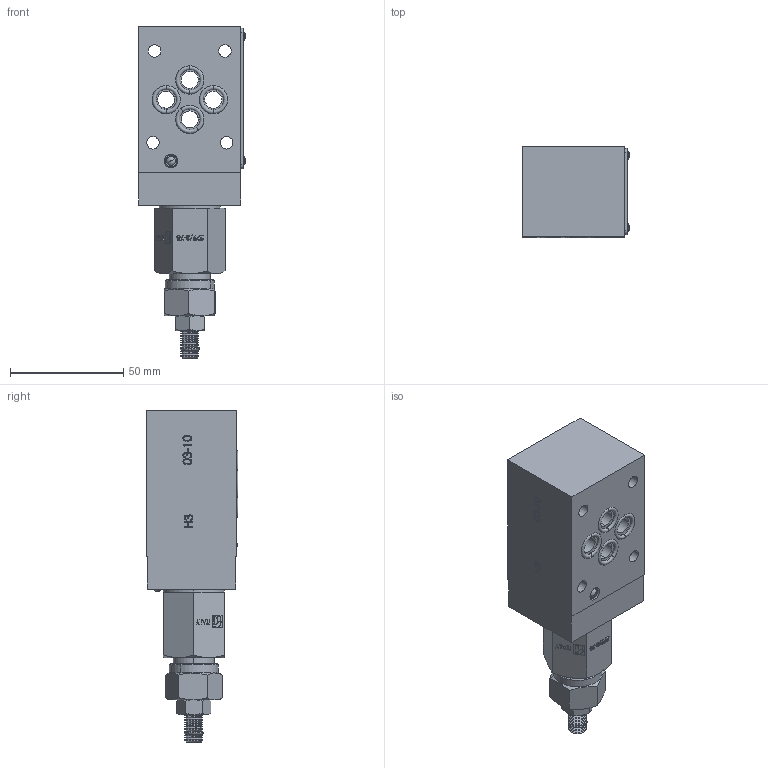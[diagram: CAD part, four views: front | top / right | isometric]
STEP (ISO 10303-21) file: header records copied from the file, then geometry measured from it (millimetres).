
FILE_DESCRIPTION (( 'STEP AP214' ), '1' );
FILE_NAME ('FT379-3-B-03.STEP', '2014-06-18T12:22:35', ( '' ), ( '' ), 'SwSTEP 2.0', 'SolidWorks 2014', '' );
FILE_SCHEMA (( 'AUTOMOTIVE_DESIGN' ));
Length unit declared in the file: millimetre
Products named in the file (21): 279_3101000-78; 379-3-B015000; 379-3-B001000; TAPPO KOENING D=6 mm; OR2037; FT379-3-B-03; RivettoTarga; 279_3-78; Anello sicurezza; OR2050; AnelloFT267_2-38; OR3075; gRANO M8x25 UNI 5923; DADO M8 UNI 5588; MOLLA-10; 279_3047000-78; 279_3034020-78; 279_3034010-78; 279_3019000-78; 279_3011000-34; 279_3012000-34
Assembly tree (28 placements, depth 3):
  FT379-3-B-03
    379-3-B001000
    379-3-B015000
    279_3-78
      279_3101000-78
      279_3012000-34
      279_3011000-34
      279_3019000-78
      279_3034010-78
      279_3034020-78
      279_3047000-78
      MOLLA-10
      DADO M8 UNI 5588
      gRANO M8x25 UNI 5923
      OR3075
      AnelloFT267_2-38  x2
      OR2050
      Anello sicurezza
    RivettoTarga  x4
    OR2037  x4
    TAPPO KOENING D=6 mm  x2
Bounding box: 46.96 x 40.38 x 146.41 mm (x, y, z)
Volume: 151573.9 mm3; surface area: 53477.5 mm2
Topology: 27 solids, 27 shells, 2331 faces, 5726 edges, 3651 vertices
Faces by surface type: plane 1163, bspline 445, cone 378, cylinder 293, torus 48, sphere 4
Entity records: 107800 total; most frequent: CARTESIAN_POINT 42203, ORIENTED_EDGE 10968, DIRECTION 8943, EDGE_CURVE 5484, VECTOR 3623, LINE 3623, VERTEX_POINT 3514, AXIS2_PLACEMENT_3D 2660
